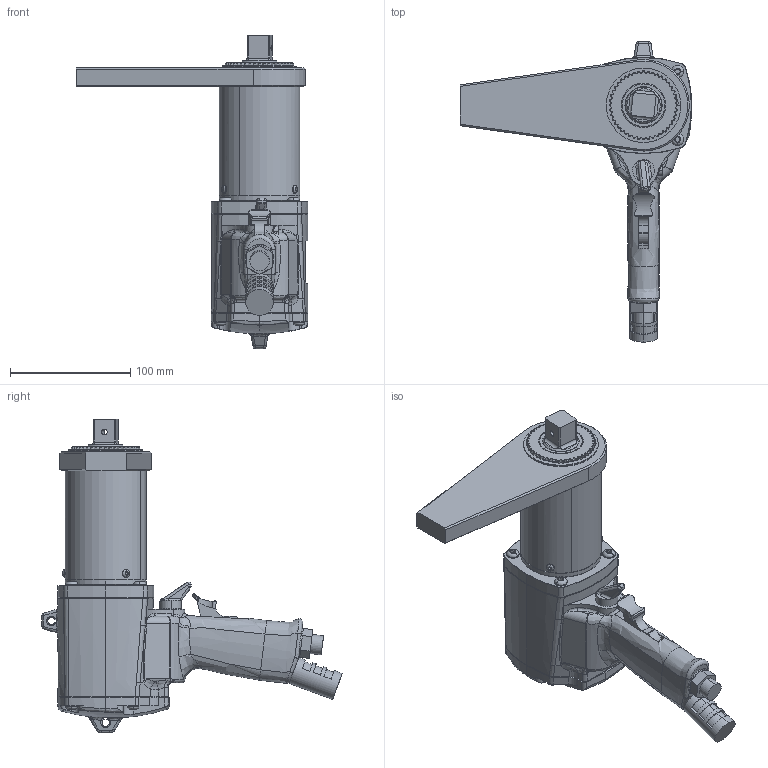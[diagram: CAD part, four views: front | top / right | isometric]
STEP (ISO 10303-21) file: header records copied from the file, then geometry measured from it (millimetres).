
FILE_DESCRIPTION (( 'STEP AP214' ), '1' );
FILE_NAME ('AAP1B66600A.STEP', '2014-12-06T00:36:47', ( 'AIMCO' ), ( '' ), 'SwSTEP 2.0', 'SolidWorks 2014', '' );
FILE_SCHEMA (( 'AUTOMOTIVE_DESIGN' ));
Length unit declared in the file: inch
Products named in the file (1): AAP1B66600A
Bounding box: 192.43 x 249.76 x 260.95 mm (x, y, z)
Surface area: 139635.5 mm2 (no closed solid volume)
Topology: 0 solids, 23 shells, 720 faces, 3072 edges, 2350 vertices
Faces by surface type: cylinder 226, plane 208, bspline 184, cone 66, torus 36
Entity records: 101103 total; most frequent: CARTESIAN_POINT 69691, ORIENTED_EDGE 4742, DIRECTION 3629, EDGE_CURVE 3059, VERTEX_POINT 2350, AXIS2_PLACEMENT_3D 1333, B_SPLINE_CURVE_WITH_KNOTS 1255, LINE 963
